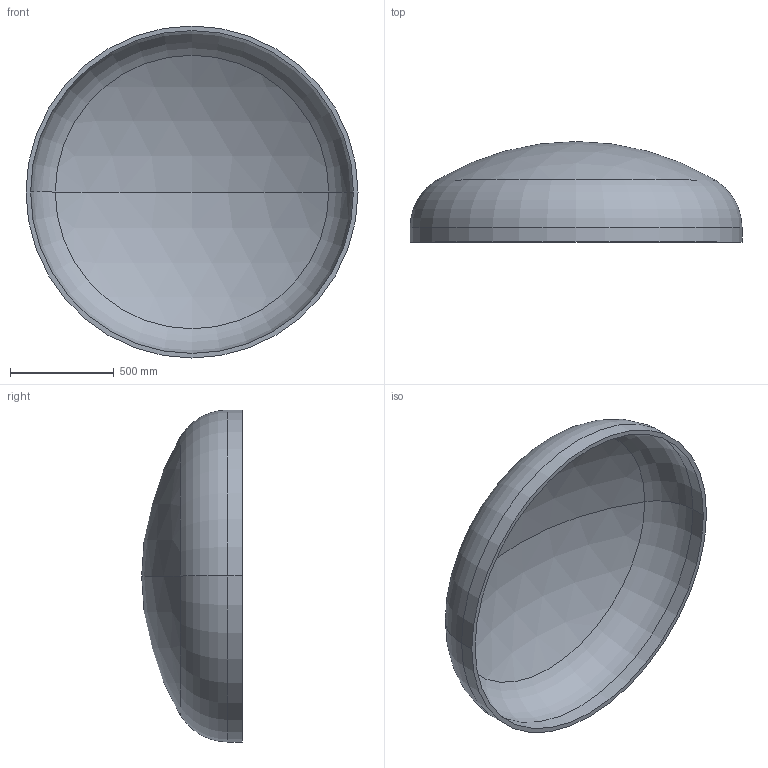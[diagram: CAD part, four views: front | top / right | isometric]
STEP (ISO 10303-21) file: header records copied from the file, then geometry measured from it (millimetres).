
FILE_DESCRIPTION (( 'STEP AP203' ), '1' );
FILE_NAME ('DIN 28013 Korbbogenform_-_Boden DIN 28013 - 1600 x 70 - I - s=22.step', '2016-07-01T11:08:59', ( '' ), ( '' ), 'SwSTEP 2.0', 'SolidWorks 2013', '' );
FILE_SCHEMA (( 'CONFIG_CONTROL_DESIGN' ));
Length unit declared in the file: millimetre
Products named in the file (1): DIN 28013 Korbbogenform_-_Boden DIN 28013 - 1600 x 70 - I - s=22
Bounding box: 1600 x 484.79 x 1600 mm (x, y, z)
Volume: 67727009.2 mm3; surface area: 6267075.9 mm2
Topology: 1 solids, 1 shells, 13 faces, 24 edges, 14 vertices
Faces by surface type: torus 4, cylinder 4, sphere 4, plane 1
Entity records: 407 total; most frequent: DIRECTION 72, CARTESIAN_POINT 52, ORIENTED_EDGE 48, AXIS2_PLACEMENT_3D 34, EDGE_CURVE 24, CIRCLE 20, EDGE_LOOP 14, VERTEX_POINT 14
